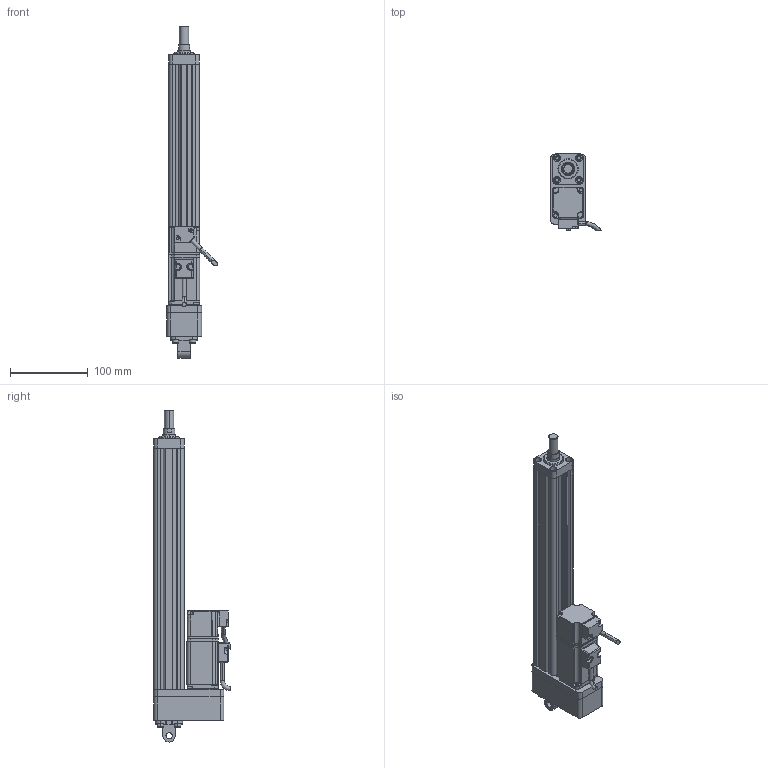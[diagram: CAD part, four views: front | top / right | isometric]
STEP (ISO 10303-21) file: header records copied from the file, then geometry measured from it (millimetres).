
FILE_DESCRIPTION (( 'STEP AP214' ), '1' );
FILE_NAME ('039-S250-D02-B-M5-C1-2.STEP', '2021-03-02T05:07:13', ( '' ), ( '' ), 'SwSTEP 2.0', 'SolidWorks 2018', '' );
FILE_SCHEMA (( 'AUTOMOTIVE_DESIGN' ));
Length unit declared in the file: millimetre
Products named in the file (8): ECMA-CX0401ES-40框號系列機種-100W低慣量系列; CMC039-GT; CMC039-LJB; CMC039-FL; 039-S250-D02-B-M5-C1-2; CMC039-DT; CMC039-HXT; F-ACE20CA_ACE_
Assembly tree (7 placements, depth 2):
  039-S250-D02-B-M5-C1-2
    CMC039-GT
    CMC039-LJB
    CMC039-FL
    CMC039-DT
    ECMA-CX0401ES-40框號系列機種-100W低慣量系列
    CMC039-HXT
    F-ACE20CA_ACE_
Bounding box: 65.34 x 97.89 x 427 mm (x, y, z)
Volume: 552651.9 mm3; surface area: 179429.6 mm2
Topology: 7 solids, 15 shells, 765 faces, 1996 edges, 1251 vertices
Faces by surface type: cylinder 321, plane 303, bspline 92, cone 49
Entity records: 29810 total; most frequent: CARTESIAN_POINT 11648, ORIENTED_EDGE 3926, DIRECTION 3331, EDGE_CURVE 1963, VERTEX_POINT 1251, AXIS2_PLACEMENT_3D 1181, VECTOR 969, LINE 969
